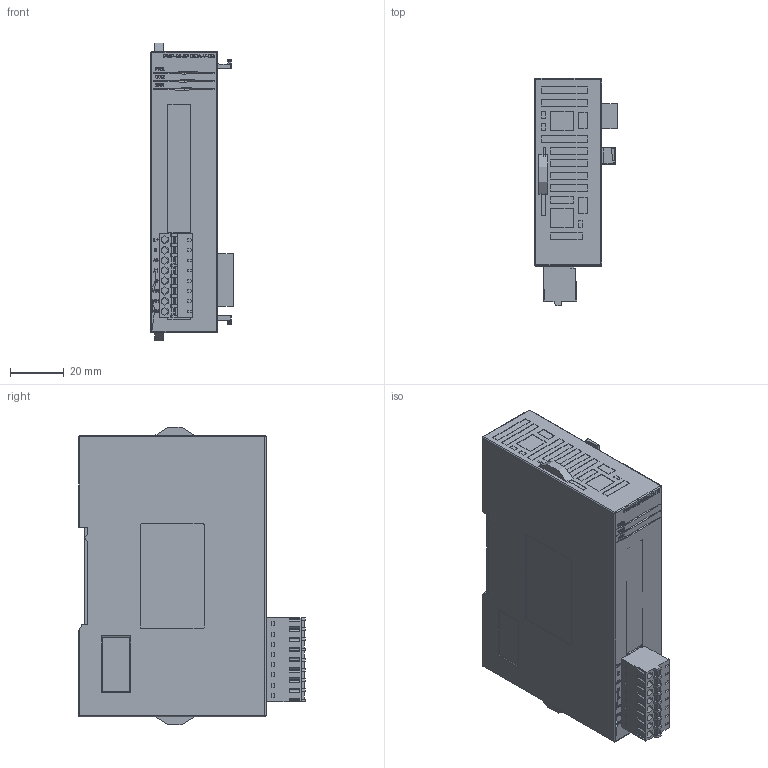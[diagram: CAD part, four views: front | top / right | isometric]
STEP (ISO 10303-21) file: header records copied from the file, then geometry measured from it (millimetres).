
FILE_DESCRIPTION(('STEP AP242'), '1');
FILE_NAME('PMP-01-2PT2DA-V-ED', '2025-08-18T14:05:34', ('PROMPOWER'), (''), 'C3D Converter', 'C3D Toolkit', '');
FILE_SCHEMA(('AP242_MANAGED_MODEL_BASED_3D_ENGINEERING_MIM_LF { 1 0 10303 442 1 1 4 }'));
Length unit declared in the file: millimetre
Products named in the file (1): PMP-01-2PT2DA-V-ED
Bounding box: 30.8 x 84.71 x 110.91 mm (x, y, z)
Surface area: 29153.7 mm2
Topology: 18 solids, 35 shells, 1343 faces, 3591 edges, 2396 vertices
Faces by surface type: plane 966, bspline 160, extrusion 131, cylinder 86
Full cylindrical faces by diameter (mm): 3 x8
Entity records: 66740 total; most frequent: CARTESIAN_POINT 23909, ORIENTED_EDGE 7060, DIRECTION 5287, EDGE_CURVE 3582, VECTOR 2755, LINE 2624, VERTEX_POINT 2396, EDGE_LOOP 1506
